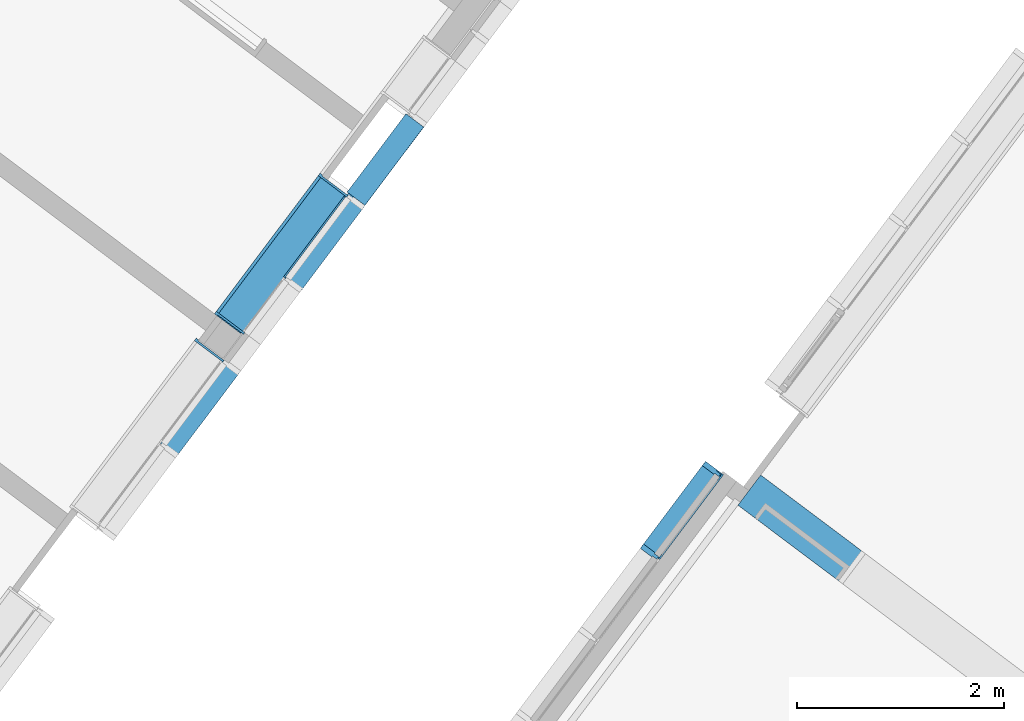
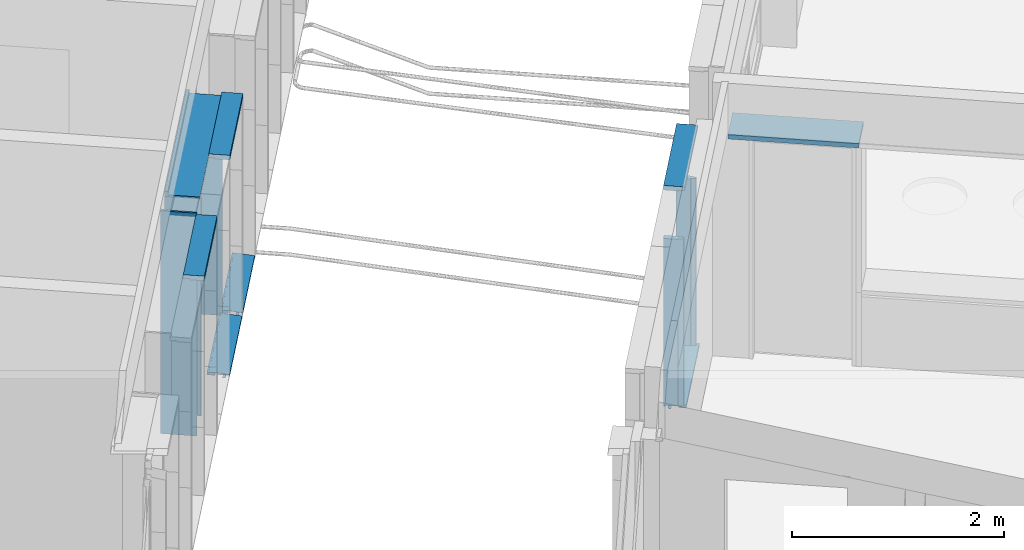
# One storey, part 19 of 243: 13 members, 5 elements without a shape of their own.
"""IFC2X3 building model written with IfcOpenShell, lengths in metres."""

from ifc_helpers import new_model, entity, si_unit, converted_unit, derived_unit, direction, frame, frame_2d, origin, origin_2d_with_axis, place, context, subcontext, project, spatial, polyline, circle_curve, parameter, trimmed, segment, composite_curve, rectangle, outline, extrude, source, transform, mapped, material, type_object, type_shapes, element, aggregate, save


model = new_model("IFC2X3")

# Units and contexts
model_context = context("Model", 3, precision=1e-05, world=origin(), true_north=direction((6.123031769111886e-17, 1.0)))
body_context = subcontext(model_context, "Body", "Model", "MODEL_VIEW")
ifc_project = project(units=[si_unit("LENGTHUNIT", "METRE"), si_unit("AREAUNIT", "SQUARE_METRE"), si_unit("VOLUMEUNIT", "CUBIC_METRE"), converted_unit("PLANEANGLEUNIT", "DEGREE", entity("IfcRatioMeasure", 0.017453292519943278), si_unit("PLANEANGLEUNIT", "RADIAN"), dimensions=[0, 0, 0, 0, 0, 0, 0]), si_unit("MASSUNIT", "GRAM", prefix="KILO"), derived_unit("MASSDENSITYUNIT", [(si_unit("MASSUNIT", "GRAM", prefix="KILO"), 1), (si_unit("LENGTHUNIT", "METRE"), -3)]), derived_unit("IONCONCENTRATIONUNIT", [(si_unit("MASSUNIT", "GRAM", prefix="KILO"), 1), (si_unit("LENGTHUNIT", "METRE"), -3)]), derived_unit("MOMENTOFINERTIAUNIT", [(si_unit("LENGTHUNIT", "METRE"), 4)]), si_unit("TIMEUNIT", "SECOND"), si_unit("FREQUENCYUNIT", "HERTZ"), si_unit("THERMODYNAMICTEMPERATUREUNIT", "DEGREE_CELSIUS"), derived_unit("THERMALTRANSMITTANCEUNIT", [(si_unit("MASSUNIT", "GRAM", prefix="KILO"), 1), (si_unit("THERMODYNAMICTEMPERATUREUNIT", "KELVIN"), -1), (si_unit("TIMEUNIT", "SECOND"), -3)]), derived_unit("THERMALCONDUCTANCEUNIT", [(si_unit("MASSUNIT", "GRAM", prefix="KILO"), 1), (si_unit("THERMODYNAMICTEMPERATUREUNIT", "KELVIN"), -1), (si_unit("TIMEUNIT", "SECOND"), -3), (si_unit("LENGTHUNIT", "METRE"), 1)]), derived_unit("VOLUMETRICFLOWRATEUNIT", [(si_unit("LENGTHUNIT", "METRE"), 3), (si_unit("TIMEUNIT", "SECOND"), -1)]), derived_unit("MASSFLOWRATEUNIT", [(si_unit("MASSUNIT", "GRAM", prefix="KILO"), 1), (si_unit("TIMEUNIT", "SECOND"), -1)]), derived_unit("ROTATIONALFREQUENCYUNIT", [(si_unit("TIMEUNIT", "SECOND"), -1)]), si_unit("ELECTRICCURRENTUNIT", "AMPERE"), si_unit("ELECTRICVOLTAGEUNIT", "VOLT"), si_unit("POWERUNIT", "WATT"), si_unit("FORCEUNIT", "NEWTON", prefix="KILO"), si_unit("ILLUMINANCEUNIT", "LUX"), si_unit("LUMINOUSFLUXUNIT", "LUMEN"), si_unit("LUMINOUSINTENSITYUNIT", "CANDELA"), derived_unit("USERDEFINED", [(si_unit("MASSUNIT", "GRAM", prefix="KILO"), -1), (si_unit("LENGTHUNIT", "METRE"), -2), (si_unit("TIMEUNIT", "SECOND"), 3), (si_unit("LUMINOUSFLUXUNIT", "LUMEN"), 1)]), derived_unit("USERDEFINED", [(si_unit("MASSUNIT", "GRAM", prefix="KILO"), 1), (si_unit("TIMEUNIT", "SECOND"), -3), (si_unit("LENGTHUNIT", "METRE"), 3), (si_unit("ELECTRICCURRENTUNIT", "AMPERE"), -2)]), derived_unit("SOUNDPOWERUNIT", [(si_unit("MASSUNIT", "GRAM", prefix="KILO"), 1), (si_unit("TIMEUNIT", "SECOND"), -3), (si_unit("LENGTHUNIT", "METRE"), 2)]), derived_unit("SOUNDPRESSUREUNIT", [(si_unit("MASSUNIT", "GRAM", prefix="KILO"), 1), (si_unit("LENGTHUNIT", "METRE"), -1), (si_unit("TIMEUNIT", "SECOND"), -2)]), derived_unit("LINEARVELOCITYUNIT", [(si_unit("LENGTHUNIT", "METRE"), 1), (si_unit("TIMEUNIT", "SECOND"), -1)]), si_unit("PRESSUREUNIT", "PASCAL"), derived_unit("USERDEFINED", [(si_unit("MASSUNIT", "GRAM", prefix="KILO"), 1), (si_unit("LENGTHUNIT", "METRE"), -2), (si_unit("TIMEUNIT", "SECOND"), -2)]), derived_unit("LINEARFORCEUNIT", [(si_unit("MASSUNIT", "GRAM", prefix="KILO"), 1), (si_unit("TIMEUNIT", "SECOND"), -2)]), derived_unit("PLANARFORCEUNIT", [(si_unit("MASSUNIT", "GRAM", prefix="KILO"), 1), (si_unit("LENGTHUNIT", "METRE"), -1), (si_unit("TIMEUNIT", "SECOND"), -2)]), derived_unit("SPECIFICHEATCAPACITYUNIT", [(si_unit("THERMODYNAMICTEMPERATUREUNIT", "KELVIN"), -1), (si_unit("LENGTHUNIT", "METRE"), 2), (si_unit("TIMEUNIT", "SECOND"), -2)]), derived_unit("HEATINGVALUEUNIT", [(si_unit("LENGTHUNIT", "METRE"), 2), (si_unit("TIMEUNIT", "SECOND"), -2)]), derived_unit("VAPORPERMEABILITYUNIT", [(si_unit("LENGTHUNIT", "METRE"), -1), (si_unit("TIMEUNIT", "SECOND"), 1)]), derived_unit("DYNAMICVISCOSITYUNIT", [(si_unit("MASSUNIT", "GRAM", prefix="KILO"), 1), (si_unit("TIMEUNIT", "SECOND"), -1), (si_unit("LENGTHUNIT", "METRE"), -1)]), derived_unit("THERMALEXPANSIONCOEFFICIENTUNIT", [(si_unit("THERMODYNAMICTEMPERATUREUNIT", "KELVIN"), -1)]), derived_unit("MODULUSOFELASTICITYUNIT", [(si_unit("MASSUNIT", "GRAM", prefix="KILO"), 1), (si_unit("LENGTHUNIT", "METRE"), -1), (si_unit("TIMEUNIT", "SECOND"), -2)]), derived_unit("ISOTHERMALMOISTURECAPACITYUNIT", [(si_unit("LENGTHUNIT", "METRE"), 3), (si_unit("MASSUNIT", "GRAM", prefix="KILO"), -1)]), derived_unit("MOISTUREDIFFUSIVITYUNIT", [(si_unit("TIMEUNIT", "SECOND"), -1), (si_unit("LENGTHUNIT", "METRE"), 2)])], contexts=[model_context])

# Site, building, storey
site_placement = place(None, frame((0.0, 0.0, 235.0), z_axis=(0.0, 0.0, 1.0), x_axis=(-0.7996477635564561, 0.6004693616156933, 0.0)))
site = spatial("IfcSite", under=ifc_project, at=site_placement, Name="Default", CompositionType="ELEMENT")
building_placement = place(site_placement, origin())
building = spatial("IfcBuilding", under=site, at=building_placement, CompositionType="ELEMENT")
storey_placement = place(building_placement, origin())
storey = spatial("IfcBuildingStorey", under=building, at=storey_placement, Name="P0- Escola", CompositionType="ELEMENT", Elevation=0.0)

# Curtain wall, member
curtain_wall_type_1 = type_object("IfcCurtainWallType", Name="Muro cortina:MC- EXT- MC2", PredefinedType="NOTDEFINED")
curtain_wall_1_placement = place(storey_placement, origin())
curtain_wall_1 = element("IfcCurtainWall", 1, at=curtain_wall_1_placement, inside=storey, type_object=curtain_wall_type_1, Name="Muro cortina:MC- EXT- MC2", ObjectType="Muro cortina:MC- EXT- MC2")
ifc_material_1 = material(Name="_Alumini- T1- Perfil")
member_type_1 = type_object("IfcMemberType", Name="Montante rectangular:MC- Alu- 140x52,5 cm- Fa patis- Superior", PredefinedType="MULLION", material=ifc_material_1)
shared_shape_1 = source(origin(), body_context, "Body", "SweptSolid", [
    extrude(outline(polyline([(-0.11366666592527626, -0.021249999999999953), (0.026333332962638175, -0.021249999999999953), (0.026333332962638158, -0.010000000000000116), (0.0873333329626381, -0.010000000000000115), (0.0873333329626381, 0.03125000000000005), (-0.11366666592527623, 0.031250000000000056), (-0.11366666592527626, -0.021249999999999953)])), frame((-0.031250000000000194, 0.0273333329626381, -1.0), z_axis=(0.0, 0.0, 1.0), x_axis=(0.0, -1.0, 0.0)), (0.0, 0.0, 1.0), 0.9999999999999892),
])
type_shapes(member_type_1, [shared_shape_1])
member_1_placement = place(curtain_wall_1_placement, frame((28.34514768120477, -27.41519175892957, 2.545), z_axis=(0.0, -1.0, 0.0), x_axis=(0.0, 0.0, 1.0)))
member_1 = element("IfcMember", 2, at=member_1_placement, type_object=member_type_1, material=ifc_material_1, Name="Montante rectangular:MC- Alu- 140x52,5 cm- Fa patis- Superior", ObjectType="Montante rectangular:MC- Alu- 140x52,5 cm- Fa patis- Superior", context=body_context, shape_type="MappedRepresentation", body=[
    mapped(shared_shape_1, transform((0.0, 0.0, 0.0), scale=1.0)),
])

curtain_wall_type_2 = type_object("IfcCurtainWallType", Name="Muro cortina:MC- INT- k7- Aules infantil", PredefinedType="NOTDEFINED")
curtain_wall_2_placement = place(storey_placement, origin())
curtain_wall_2 = element("IfcCurtainWall", 3, at=curtain_wall_2_placement, inside=storey, type_object=curtain_wall_type_2, Name="Muro cortina:MC- INT- k7- Aules infantil", ObjectType="Muro cortina:MC- INT- k7- Aules infantil")
ifc_material_2 = material(Name="_Fusta massisa- T1")
member_type_2 = type_object("IfcMemberType", Name="Montante rectangular:MC- Fusta- 35x3 cm- Pati aules- Remat dreta", PredefinedType="MULLION", material=ifc_material_2)
shared_shape_2 = source(origin(), body_context, "Body", "SweptSolid", [
    extrude(outline(polyline([(-0.22, -0.01666666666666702), (0.12500000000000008, -0.01666666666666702), (0.12500000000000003, 0.013333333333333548), (0.09500000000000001, 0.013333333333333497), (0.09499999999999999, 0.003333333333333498), (-0.22, 0.003333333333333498), (-0.22, -0.01666666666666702)])), frame((0.0016666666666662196, 0.03000000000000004, -2.504999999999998), z_axis=(0.0, 0.0, 1.0), x_axis=(0.0, -1.0, 0.0)), (0.0, 0.0, 1.0), 2.5049999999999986),
])
type_shapes(member_type_2, [shared_shape_2])
member_2_placement = place(curtain_wall_2_placement, frame((28.645147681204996, -29.415191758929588, 0.0), z_axis=(0.0, 0.0, -1.0), x_axis=(0.0, -1.0, 0.0)))
member_2 = element("IfcMember", 4, at=member_2_placement, type_object=member_type_2, material=ifc_material_2, Name="Montante rectangular:MC- Fusta- 35x3 cm- Pati aules- Remat dreta", ObjectType="Montante rectangular:MC- Fusta- 35x3 cm- Pati aules- Remat dreta", context=body_context, shape_type="MappedRepresentation", body=[
    mapped(shared_shape_2, transform((0.0, 0.0, 0.0), scale=1.0)),
])

curtain_wall_3_placement = place(storey_placement, origin())
curtain_wall_3 = element("IfcCurtainWall", 5, at=curtain_wall_3_placement, inside=storey, type_object=curtain_wall_type_2, Name="Muro cortina:MC- INT- k7- Aules infantil", ObjectType="Muro cortina:MC- INT- k7- Aules infantil")
member_type_3 = type_object("IfcMemberType", Name="Montante rectangular:MC- Fusta- 35x3 cm- Pati aules- Remat dreta", PredefinedType="MULLION", material=ifc_material_2)
shared_shape_3 = source(origin(), body_context, "Body", "SweptSolid", [
    extrude(outline(polyline([(-0.22000000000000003, -0.01666666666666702), (0.12500000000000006, -0.01666666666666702), (0.125, 0.013333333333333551), (0.09500000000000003, 0.013333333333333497), (0.09500000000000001, 0.003333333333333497), (-0.22000000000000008, 0.003333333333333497), (-0.22000000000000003, -0.01666666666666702)])), frame((-0.013333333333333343, 0.03000000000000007, -2.5649999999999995), z_axis=(0.0, 0.0, 1.0), x_axis=(0.0, -1.0, 0.0)), (0.0, 0.0, 1.0), 2.565),
])
type_shapes(member_type_3, [shared_shape_3])
member_3_placement = place(curtain_wall_3_placement, frame((28.645147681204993, -27.43519175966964, 0.0), z_axis=(0.0, 0.0, -1.0), x_axis=(0.0, -1.0, 0.0)))
member_3 = element("IfcMember", 6, at=member_3_placement, type_object=member_type_3, material=ifc_material_2, Name="Montante rectangular:MC- Fusta- 35x3 cm- Pati aules- Remat dreta", ObjectType="Montante rectangular:MC- Fusta- 35x3 cm- Pati aules- Remat dreta", context=body_context, shape_type="MappedRepresentation", body=[
    mapped(shared_shape_3, transform((0.0, 0.0, 0.0), scale=1.0)),
])
aggregate(curtain_wall_3, [member_3])

# Member
member_type_4 = type_object("IfcMemberType", Name="Montante rectangular:MC- Fusta- 35x3 cm- Pati aules- Remat esquerra", PredefinedType="MULLION", material=ifc_material_2)
shared_shape_4 = source(origin(), body_context, "Body", "SweptSolid", [
    extrude(outline(polyline([(-0.22000000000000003, -0.01666666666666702), (0.12500000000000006, -0.01666666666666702), (0.125, 0.013333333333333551), (0.09500000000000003, 0.013333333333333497), (0.09500000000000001, 0.003333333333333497), (-0.22000000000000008, 0.003333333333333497), (-0.22000000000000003, -0.01666666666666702)])), frame((-0.013333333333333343, 0.03000000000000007, -2.504999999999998), z_axis=(0.0, 0.0, 1.0), x_axis=(0.0, -1.0, 0.0)), (0.0, 0.0, 1.0), 2.5049999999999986),
])
type_shapes(member_type_4, [shared_shape_4])
member_4_placement = place(curtain_wall_2_placement, frame((28.645147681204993, -27.729191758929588, 2.5049999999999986), z_axis=(0.0, 0.0, 1.0), x_axis=(0.0, 1.0, 0.0)))
member_4 = element("IfcMember", 7, at=member_4_placement, type_object=member_type_4, material=ifc_material_2, Name="Montante rectangular:MC- Fusta- 35x3 cm- Pati aules- Remat esquerra", ObjectType="Montante rectangular:MC- Fusta- 35x3 cm- Pati aules- Remat esquerra", context=body_context, shape_type="MappedRepresentation", body=[
    mapped(shared_shape_4, transform((0.0, 0.0, 0.0), scale=1.0)),
])

member_type_5 = type_object("IfcMemberType", Name="Montante rectangular:MC- Fusta- 35x3 cm- Pati aules- Remat superior", PredefinedType="MULLION", material=ifc_material_2)
shared_shape_5 = source(origin(), body_context, "Body", "SweptSolid", [
    extrude(outline(polyline([(-0.21333333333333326, -0.02666666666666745), (0.1216666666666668, -0.02666666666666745), (0.12166666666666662, 0.03333333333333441), (0.09166666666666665, 0.03333333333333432), (0.09166666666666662, -0.006666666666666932), (-0.2133333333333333, -0.006666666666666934), (-0.21333333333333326, -0.02666666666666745)])), frame((-0.033333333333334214, 0.026666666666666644, -1.685999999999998), z_axis=(0.0, 0.0, 1.0), x_axis=(0.0, -1.0, 0.0)), (0.0, 0.0, 1.0), 1.685999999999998),
])
type_shapes(member_type_5, [shared_shape_5])
member_5_placement = place(curtain_wall_2_placement, frame((28.645147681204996, -29.415191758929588, 2.565), z_axis=(0.0, -1.0, 0.0), x_axis=(0.0, 0.0, 1.0)))
member_5 = element("IfcMember", 8, at=member_5_placement, type_object=member_type_5, material=ifc_material_2, Name="Montante rectangular:MC- Fusta- 35x3 cm- Pati aules- Remat superior", ObjectType="Montante rectangular:MC- Fusta- 35x3 cm- Pati aules- Remat superior", context=body_context, shape_type="MappedRepresentation", body=[
    mapped(shared_shape_5, transform((0.0, 0.0, 0.0), scale=1.0)),
])

aggregate(curtain_wall_2, [member_5, member_2, member_4])

member_type_6 = type_object("IfcMemberType", Name="Montante rectangular:MC- Alu- 140x52,5 cm- Fa patis- inferior", PredefinedType="MULLION", material=ifc_material_1)
shared_shape_6 = source(origin(), body_context, "Body", "SweptSolid", [
    extrude(outline(composite_curve([segment(polyline([(0.1278672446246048, -0.02586710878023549), (0.14416724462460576, -0.025867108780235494)]), True, "CONTINUOUS"), segment(polyline([(0.14416724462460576, -0.025867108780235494), (0.1441672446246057, 0.009132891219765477)]), True, "CONTINUOUS"), segment(polyline([(0.1441672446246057, 0.009132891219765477), (0.06786724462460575, 0.009132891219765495)]), True, "CONTINUOUS"), segment(polyline([(0.06786724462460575, 0.009132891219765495), (0.06786724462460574, -0.021159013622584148)]), True, "CONTINUOUS"), segment(polyline([(0.06786724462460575, -0.02115901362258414), (-0.030132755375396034, -0.012332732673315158)]), True, "CONTINUOUS"), segment(polyline([(-0.03013275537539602, -0.012332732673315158), (-0.030132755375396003, 0.027132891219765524)]), True, "CONTINUOUS"), segment(polyline([(-0.030132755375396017, 0.02713289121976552), (-0.0021327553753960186, 0.02713289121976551)]), True, "CONTINUOUS"), segment(polyline([(-0.0021327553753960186, 0.027132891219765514), (-0.0021327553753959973, 0.029132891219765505)]), True, "CONTINUOUS"), segment(polyline([(-0.0021327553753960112, 0.029132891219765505), (-0.032132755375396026, 0.029132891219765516)]), True, "CONTINUOUS"), segment(polyline([(-0.032132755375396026, 0.029132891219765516), (-0.03213275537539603, -0.012152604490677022)]), True, "CONTINUOUS"), segment(polyline([(-0.03213275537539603, -0.012152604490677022), (-0.0701327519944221, -0.008730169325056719)]), True, "CONTINUOUS"), segment(polyline([(-0.0701327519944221, -0.008730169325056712), (-0.0701327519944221, 0.005766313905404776)]), True, "CONTINUOUS"), segment(trimmed(circle_curve(frame_2d((-0.0696327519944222, 0.0057663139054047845), x_axis=(-1.0, 0.0)), 0.0004999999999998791), [parameter(269.999999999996)], [parameter(0.0)], True, "PARAMETER"), False, "CONTINUOUS"), segment(polyline([(-0.0696327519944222, 0.00626631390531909), (-0.06213275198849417, 0.006266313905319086)]), True, "CONTINUOUS"), segment(polyline([(-0.06213275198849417, 0.006266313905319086), (-0.06213275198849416, 0.008266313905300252)]), True, "CONTINUOUS"), segment(polyline([(-0.06213275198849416, 0.008266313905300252), (-0.07013275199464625, 0.008266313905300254)]), True, "CONTINUOUS"), segment(trimmed(circle_curve(frame_2d((-0.07013275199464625, 0.006266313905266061), x_axis=(0.0, 1.0)), 0.0020000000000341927), [parameter(0.0)], [parameter(90.00000002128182)], True, "PARAMETER"), True, "CONTINUOUS"), segment(polyline([(-0.07213275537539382, 0.006266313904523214), (-0.07213275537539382, -0.008730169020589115)]), True, "CONTINUOUS"), segment(trimmed(circle_curve(frame_2d((-0.07013275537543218, -0.008730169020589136), x_axis=(-1.0, 0.0)), 0.0019999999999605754), [parameter(0.0)], [parameter(84.85359280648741)], True, "PARAMETER"), True, "CONTINUOUS"), segment(polyline([(-0.07031215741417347, -0.01072210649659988), (0.06786724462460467, -0.023167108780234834)]), True, "CONTINUOUS"), segment(polyline([(0.06786724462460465, -0.023167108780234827), (0.12786724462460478, -0.023167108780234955)]), True, "CONTINUOUS"), segment(polyline([(0.12786724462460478, -0.023167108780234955), (0.1278672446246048, -0.02586710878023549)]), True, "CONTINUOUS")], self_intersect=False)), frame((-0.029132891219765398, 0.06786724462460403, -0.9737499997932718), z_axis=(0.0, 0.0, 1.0), x_axis=(0.0, -1.0, 0.0)), (0.0, 0.0, 1.0), 0.9737499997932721),
])
type_shapes(member_type_6, [shared_shape_6])
member_6_placement = place(curtain_wall_1_placement, frame((28.34514768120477, -28.415191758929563, -0.02), z_axis=(0.0, 1.0, 0.0), x_axis=(0.0, 0.0, -1.0)))
member_6 = element("IfcMember", 9, at=member_6_placement, type_object=member_type_6, material=ifc_material_1, Name="Montante rectangular:MC- Alu- 140x52,5 cm- Fa patis- inferior", ObjectType="Montante rectangular:MC- Alu- 140x52,5 cm- Fa patis- inferior", context=body_context, shape_type="MappedRepresentation", body=[
    mapped(shared_shape_6, transform((0.0, 0.0, 0.0), scale=1.0)),
])

member_type_7 = type_object("IfcMemberType", Name="Montante rectangular:MC- Alu- 140x52,5 cm- Fa patis- Superior", PredefinedType="MULLION", material=ifc_material_1)
shared_shape_7 = source(origin(), body_context, "Body", "SweptSolid", [
    extrude(outline(polyline([(-0.11366666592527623, -0.021249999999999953), (0.026333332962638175, -0.021249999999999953), (0.026333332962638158, -0.010000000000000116), (0.08733333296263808, -0.010000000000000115), (0.08733333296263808, 0.03125000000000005), (-0.11366666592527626, 0.031250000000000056), (-0.11366666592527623, -0.021249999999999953)])), frame((-0.031250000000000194, 0.0273333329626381, -1.0262500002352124), z_axis=(0.0, 0.0, 1.0), x_axis=(0.0, -1.0, 0.0)), (0.0, 0.0, 1.0), 1.0262500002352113),
])
type_shapes(member_type_7, [shared_shape_7])
member_7_placement = place(curtain_wall_1_placement, frame((28.34514768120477, -29.441441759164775, 2.545), z_axis=(0.0, -1.0, 0.0), x_axis=(0.0, 0.0, 1.0)))
member_7 = element("IfcMember", 10, at=member_7_placement, type_object=member_type_7, material=ifc_material_1, Name="Montante rectangular:MC- Alu- 140x52,5 cm- Fa patis- Superior", ObjectType="Montante rectangular:MC- Alu- 140x52,5 cm- Fa patis- Superior", context=body_context, shape_type="MappedRepresentation", body=[
    mapped(shared_shape_7, transform((0.0, 0.0, 0.0), scale=1.0)),
])

member_type_8 = type_object("IfcMemberType", Name="Montante rectangular:MC- Alu- 140x52,5 cm- Fa patis- inferior", PredefinedType="MULLION", material=ifc_material_1)
shared_shape_8 = source(origin(), body_context, "Body", "SweptSolid", [
    extrude(outline(composite_curve([segment(polyline([(0.1278672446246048, -0.02586710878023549), (0.14416724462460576, -0.025867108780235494)]), True, "CONTINUOUS"), segment(polyline([(0.14416724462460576, -0.025867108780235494), (0.1441672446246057, 0.009132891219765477)]), True, "CONTINUOUS"), segment(polyline([(0.1441672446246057, 0.009132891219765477), (0.06786724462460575, 0.009132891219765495)]), True, "CONTINUOUS"), segment(polyline([(0.06786724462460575, 0.009132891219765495), (0.06786724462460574, -0.021159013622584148)]), True, "CONTINUOUS"), segment(polyline([(0.06786724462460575, -0.02115901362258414), (-0.030132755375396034, -0.012332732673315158)]), True, "CONTINUOUS"), segment(polyline([(-0.03013275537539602, -0.012332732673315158), (-0.030132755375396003, 0.027132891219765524)]), True, "CONTINUOUS"), segment(polyline([(-0.030132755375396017, 0.02713289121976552), (-0.0021327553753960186, 0.02713289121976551)]), True, "CONTINUOUS"), segment(polyline([(-0.0021327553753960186, 0.027132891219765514), (-0.0021327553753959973, 0.029132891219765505)]), True, "CONTINUOUS"), segment(polyline([(-0.0021327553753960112, 0.029132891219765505), (-0.032132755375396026, 0.029132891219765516)]), True, "CONTINUOUS"), segment(polyline([(-0.032132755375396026, 0.029132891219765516), (-0.03213275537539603, -0.012152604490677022)]), True, "CONTINUOUS"), segment(polyline([(-0.03213275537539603, -0.012152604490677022), (-0.0701327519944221, -0.008730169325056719)]), True, "CONTINUOUS"), segment(polyline([(-0.0701327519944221, -0.008730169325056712), (-0.0701327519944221, 0.005766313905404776)]), True, "CONTINUOUS"), segment(trimmed(circle_curve(frame_2d((-0.0696327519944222, 0.0057663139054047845), x_axis=(-1.0, 0.0)), 0.0004999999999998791), [parameter(269.999999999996)], [parameter(0.0)], True, "PARAMETER"), False, "CONTINUOUS"), segment(polyline([(-0.0696327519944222, 0.00626631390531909), (-0.06213275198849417, 0.006266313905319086)]), True, "CONTINUOUS"), segment(polyline([(-0.06213275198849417, 0.006266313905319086), (-0.06213275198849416, 0.008266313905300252)]), True, "CONTINUOUS"), segment(polyline([(-0.06213275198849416, 0.008266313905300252), (-0.07013275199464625, 0.008266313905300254)]), True, "CONTINUOUS"), segment(trimmed(circle_curve(frame_2d((-0.07013275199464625, 0.006266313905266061), x_axis=(0.0, 1.0)), 0.0020000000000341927), [parameter(0.0)], [parameter(90.00000002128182)], True, "PARAMETER"), True, "CONTINUOUS"), segment(polyline([(-0.07213275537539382, 0.006266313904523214), (-0.07213275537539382, -0.008730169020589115)]), True, "CONTINUOUS"), segment(trimmed(circle_curve(frame_2d((-0.07013275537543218, -0.008730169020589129), x_axis=(-1.0, 0.0)), 0.0019999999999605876), [parameter(0.0)], [parameter(84.85359280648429)], True, "PARAMETER"), True, "CONTINUOUS"), segment(polyline([(-0.07031215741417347, -0.01072210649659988), (0.06786724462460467, -0.023167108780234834)]), True, "CONTINUOUS"), segment(polyline([(0.06786724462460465, -0.023167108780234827), (0.12786724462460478, -0.023167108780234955)]), True, "CONTINUOUS"), segment(polyline([(0.12786724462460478, -0.023167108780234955), (0.1278672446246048, -0.02586710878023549)]), True, "CONTINUOUS")], self_intersect=False)), frame((-0.029132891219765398, 0.06786724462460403, -0.9474999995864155), z_axis=(0.0, 0.0, 1.0), x_axis=(0.0, -1.0, 0.0)), (0.0, 0.0, 1.0), 0.9474999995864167),
])
type_shapes(member_type_8, [shared_shape_8])
member_8_placement = place(curtain_wall_1_placement, frame((28.34514768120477, -29.441441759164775, -0.02), z_axis=(0.0, 1.0, 0.0), x_axis=(0.0, 0.0, -1.0)))
member_8 = element("IfcMember", 11, at=member_8_placement, type_object=member_type_8, material=ifc_material_1, Name="Montante rectangular:MC- Alu- 140x52,5 cm- Fa patis- inferior", ObjectType="Montante rectangular:MC- Alu- 140x52,5 cm- Fa patis- inferior", context=body_context, shape_type="MappedRepresentation", body=[
    mapped(shared_shape_8, transform((0.0, 0.0, 0.0), scale=1.0)),
])

aggregate(curtain_wall_1, [member_1, member_6, member_7, member_8])

# Curtain wall, members
curtain_wall_4_placement = place(storey_placement, origin())
curtain_wall_4 = element("IfcCurtainWall", 12, at=curtain_wall_4_placement, inside=storey, type_object=curtain_wall_type_1, Name="Muro cortina:MC- EXT- MC2", ObjectType="Muro cortina:MC- EXT- MC2")
member_type_9 = type_object("IfcMemberType", Name="Montante rectangular:MC- Alu- 140x52,5 cm- Fa patis- Centre", PredefinedType="MULLION", material=ifc_material_1)
shared_shape_9 = source(origin(), body_context, "Body", "SweptSolid", [
    extrude(outline(polyline([(-0.021999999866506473, -0.026250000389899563), (0.11699999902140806, -0.026250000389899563), (0.11699999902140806, 0.026250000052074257), (-0.022000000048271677, 0.026250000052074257), (-0.022000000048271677, 0.015000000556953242), (-0.07299999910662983, 0.015000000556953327), (-0.07299999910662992, -0.01500000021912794), (-0.021999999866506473, -0.01500000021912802), (-0.021999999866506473, -0.026250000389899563)])), frame((0.0, -0.022999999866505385, -1.919999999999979), z_axis=(0.0, 0.0, 1.0), x_axis=(0.0, -1.0, 0.0)), (0.0, 0.0, 1.0), 1.9199999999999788),
])
type_shapes(member_type_9, [shared_shape_9])
member_9_placement = place(curtain_wall_4_placement, frame((23.945147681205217, -28.415191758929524, 0.035000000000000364), z_axis=(0.0, 0.0, -1.0), x_axis=(0.0, -1.0, 0.0)))
member_9 = element("IfcMember", 13, at=member_9_placement, type_object=member_type_9, material=ifc_material_1, Name="Montante rectangular:MC- Alu- 140x52,5 cm- Fa patis- Centre", ObjectType="Montante rectangular:MC- Alu- 140x52,5 cm- Fa patis- Centre", context=body_context, shape_type="MappedRepresentation", body=[
    mapped(shared_shape_9, transform((0.0, 0.0, 0.0), scale=1.0)),
])
member_type_10 = type_object("IfcMemberType", Name="Montante rectangular:MC- Alu- 140x52,5 cm- Fa patis- inferior", PredefinedType="MULLION", material=ifc_material_1)
shared_shape_10 = source(origin(), body_context, "Body", "SweptSolid", [
    extrude(outline(composite_curve([segment(polyline([(-0.144167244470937, -0.02586710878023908), (-0.12786724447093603, -0.025867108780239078)]), True, "CONTINUOUS"), segment(polyline([(-0.12786724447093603, -0.025867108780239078), (-0.12786724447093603, -0.023167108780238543)]), True, "CONTINUOUS"), segment(polyline([(-0.12786724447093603, -0.023167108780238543), (-0.0678672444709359, -0.023167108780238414)]), True, "CONTINUOUS"), segment(polyline([(-0.0678672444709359, -0.023167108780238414), (0.07031215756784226, -0.01072210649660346)]), True, "CONTINUOUS"), segment(trimmed(circle_curve(frame_2d((0.07013275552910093, -0.008730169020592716), x_axis=(0.0897010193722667, -0.9959687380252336)), 0.001999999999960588), [parameter(0.0)], [parameter(84.85359280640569)], True, "PARAMETER"), True, "CONTINUOUS"), segment(polyline([(0.07213275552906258, -0.008730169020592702), (0.07213275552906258, 0.006266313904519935)]), True, "CONTINUOUS"), segment(trimmed(circle_curve(frame_2d((0.070132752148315, 0.006266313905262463), x_axis=(1.0, 0.0)), 0.0020000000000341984), [parameter(0.0)], [parameter(90.00000002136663)], True, "PARAMETER"), True, "CONTINUOUS"), segment(polyline([(0.070132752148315, 0.008266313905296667), (0.06213275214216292, 0.008266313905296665)]), True, "CONTINUOUS"), segment(polyline([(0.06213275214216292, 0.008266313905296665), (0.06213275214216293, 0.006266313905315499)]), True, "CONTINUOUS"), segment(polyline([(0.06213275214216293, 0.006266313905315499), (0.06963275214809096, 0.006266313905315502)]), True, "CONTINUOUS"), segment(trimmed(circle_curve(frame_2d((0.06963275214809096, 0.005766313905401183), x_axis=(0.0, 1.0)), 0.0004999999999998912), [parameter(269.9999999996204)], [parameter(0.0)], True, "PARAMETER"), False, "CONTINUOUS"), segment(polyline([(0.07013275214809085, 0.005766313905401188), (0.07013275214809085, -0.0087301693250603)]), True, "CONTINUOUS"), segment(polyline([(0.07013275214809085, -0.0087301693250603), (0.03213275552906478, -0.01215260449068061)]), True, "CONTINUOUS"), segment(polyline([(0.03213275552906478, -0.012152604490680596), (0.03213275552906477, 0.02913289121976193)]), True, "CONTINUOUS"), segment(polyline([(0.03213275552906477, 0.02913289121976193), (0.0021327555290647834, 0.029132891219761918)]), True, "CONTINUOUS"), segment(polyline([(0.0021327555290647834, 0.029132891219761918), (0.0021327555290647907, 0.027132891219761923)]), True, "CONTINUOUS"), segment(polyline([(0.0021327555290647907, 0.027132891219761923), (0.03013275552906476, 0.027132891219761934)]), True, "CONTINUOUS"), segment(polyline([(0.03013275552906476, 0.027132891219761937), (0.03013275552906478, -0.012332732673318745)]), True, "CONTINUOUS"), segment(polyline([(0.03013275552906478, -0.012332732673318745), (-0.06786724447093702, -0.02115901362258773)]), True, "CONTINUOUS"), segment(polyline([(-0.06786724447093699, -0.021159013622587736), (-0.067867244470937, 0.009132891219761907)]), True, "CONTINUOUS"), segment(polyline([(-0.06786724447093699, 0.009132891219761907), (-0.14416724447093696, 0.00913289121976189)]), True, "CONTINUOUS"), segment(polyline([(-0.14416724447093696, 0.00913289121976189), (-0.144167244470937, -0.02586710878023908)]), True, "CONTINUOUS")], self_intersect=False)), frame((-0.02913289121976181, -0.06786724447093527, -1.0262500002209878), z_axis=(0.0, 0.0, 1.0), x_axis=(0.0, -1.0, 0.0)), (0.0, 0.0, 1.0), 1.0262500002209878),
])
type_shapes(member_type_10, [shared_shape_10])
member_10_placement = place(curtain_wall_4_placement, frame((23.945147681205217, -28.415191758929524, -0.02), z_axis=(0.0, 1.0, 0.0), x_axis=(0.0, 0.0, -1.0)))
member_10 = element("IfcMember", 14, at=member_10_placement, type_object=member_type_10, material=ifc_material_1, Name="Montante rectangular:MC- Alu- 140x52,5 cm- Fa patis- inferior", ObjectType="Montante rectangular:MC- Alu- 140x52,5 cm- Fa patis- inferior", context=body_context, shape_type="MappedRepresentation", body=[
    mapped(shared_shape_10, transform((0.0, 0.0, 0.0), scale=1.0)),
])
member_type_11 = type_object("IfcMemberType", Name="Montante rectangular:MC- Alu- 140x52,5 cm- Fa patis- Superior", PredefinedType="MULLION", material=ifc_material_1)
shared_shape_11 = source(origin(), body_context, "Body", "SweptSolid", [
    extrude(outline(polyline([(-0.026333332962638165, -0.021249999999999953), (0.11366666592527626, -0.021249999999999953), (0.11366666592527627, 0.031250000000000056), (-0.08733333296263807, 0.03125000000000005), (-0.0873333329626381, -0.010000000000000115), (-0.026333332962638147, -0.010000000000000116), (-0.026333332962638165, -0.021249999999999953)])), frame((-0.031250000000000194, -0.02733333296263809, -1.0262500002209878), z_axis=(0.0, 0.0, 1.0), x_axis=(0.0, -1.0, 0.0)), (0.0, 0.0, 1.0), 1.0262500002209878),
])
type_shapes(member_type_11, [shared_shape_11])
member_11_placement = place(curtain_wall_4_placement, frame((23.945147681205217, -29.44144175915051, 2.545), z_axis=(0.0, -1.0, 0.0), x_axis=(0.0, 0.0, 1.0)))
member_11 = element("IfcMember", 15, at=member_11_placement, type_object=member_type_11, material=ifc_material_1, Name="Montante rectangular:MC- Alu- 140x52,5 cm- Fa patis- Superior", ObjectType="Montante rectangular:MC- Alu- 140x52,5 cm- Fa patis- Superior", context=body_context, shape_type="MappedRepresentation", body=[
    mapped(shared_shape_11, transform((0.0, 0.0, 0.0), scale=1.0)),
])
member_type_12 = type_object("IfcMemberType", Name="Montante rectangular:MC- Alu- 140x52,5 cm- Fa patis- Centre", PredefinedType="MULLION", material=ifc_material_1)
shared_shape_12 = source(origin(), body_context, "Body", "SweptSolid", [
    extrude(outline(polyline([(-0.021999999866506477, -0.026250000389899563), (0.11699999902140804, -0.026250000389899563), (0.11699999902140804, 0.026250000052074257), (-0.02200000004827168, 0.026250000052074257), (-0.02200000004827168, 0.015000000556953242), (-0.07299999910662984, 0.015000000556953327), (-0.07299999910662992, -0.015000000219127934), (-0.021999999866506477, -0.015000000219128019), (-0.021999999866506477, -0.026250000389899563)])), frame((-0.026250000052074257, -0.022999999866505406, -1.919999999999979), z_axis=(0.0, 0.0, 1.0), x_axis=(0.0, -1.0, 0.0)), (0.0, 0.0, 1.0), 1.9199999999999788),
])
type_shapes(member_type_12, [shared_shape_12])
member_12_placement = place(curtain_wall_4_placement, frame((23.945147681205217, -29.44144175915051, 0.035000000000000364), z_axis=(0.0, 0.0, -1.0), x_axis=(0.0, -1.0, 0.0)))
member_12 = element("IfcMember", 16, at=member_12_placement, type_object=member_type_12, material=ifc_material_1, Name="Montante rectangular:MC- Alu- 140x52,5 cm- Fa patis- Centre", ObjectType="Montante rectangular:MC- Alu- 140x52,5 cm- Fa patis- Centre", context=body_context, shape_type="MappedRepresentation", body=[
    mapped(shared_shape_12, transform((0.0, 0.0, 0.0), scale=1.0)),
])
aggregate(curtain_wall_4, [member_10, member_9, member_11, member_12])

# Curtain wall, member
curtain_wall_type_3 = type_object("IfcCurtainWallType", Name="Muro cortina:MC- INT- b3", PredefinedType="NOTDEFINED")
curtain_wall_5_placement = place(storey_placement, origin())
curtain_wall_5 = element("IfcCurtainWall", 17, at=curtain_wall_5_placement, inside=storey, type_object=curtain_wall_type_3, Name="Muro cortina:MC- INT- b3", ObjectType="Muro cortina:MC- INT- b3")
member_type_13 = type_object("IfcMemberType", Name="Montante rectangular:MC- Fusta- 38x5 cm- Menjador- neutre.rfa", PredefinedType="MULLION", material=ifc_material_2)
shared_shape_13 = source(origin(), body_context, "Body", "SweptSolid", [
    extrude(rectangle(XDim=0.36600000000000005, YDim=0.05, at=origin_2d_with_axis()), frame((-0.025000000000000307, 0.006999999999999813, -1.242500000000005), z_axis=(0.0, 0.0, 1.0), x_axis=(0.0, -1.0, 0.0)), (0.0, 0.0, 1.0), 1.242500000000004),
])
type_shapes(member_type_13, [shared_shape_13])
member_13_placement = place(curtain_wall_5_placement, frame((23.580147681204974, -29.46519175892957, 2.565), z_axis=(1.0, 0.0, 0.0), x_axis=(0.0, 0.0, 1.0)))
member_13 = element("IfcMember", 18, at=member_13_placement, type_object=member_type_13, material=ifc_material_2, Name="Montante rectangular:MC- Fusta- 38x5 cm- Menjador- neutre.rfa", ObjectType="Montante rectangular:MC- Fusta- 38x5 cm- Menjador- neutre.rfa", context=body_context, shape_type="MappedRepresentation", body=[
    mapped(shared_shape_13, transform((0.0, 0.0, 0.0), scale=1.0)),
])
aggregate(curtain_wall_5, [member_13])

save(model, "model.ifc")
